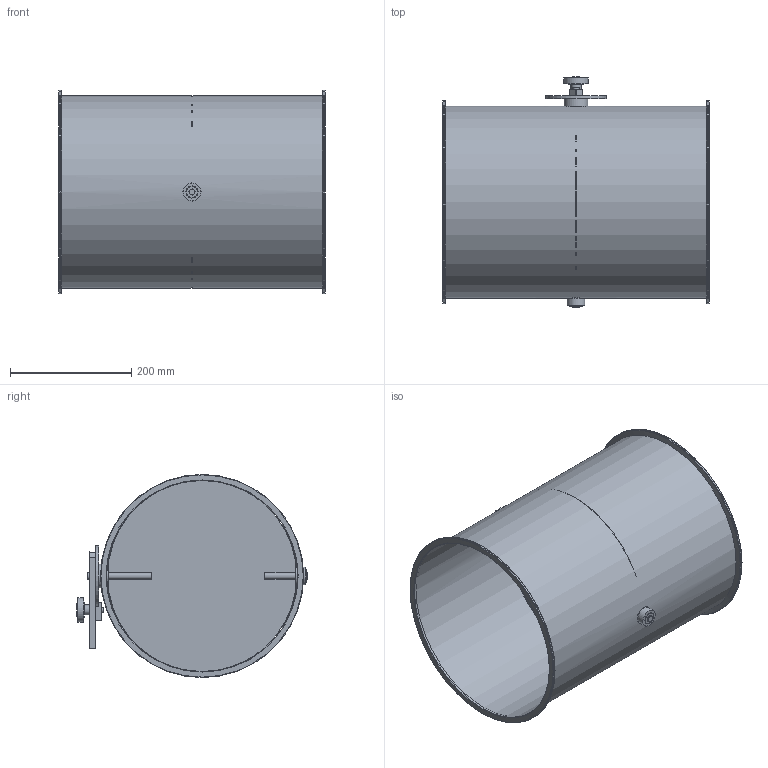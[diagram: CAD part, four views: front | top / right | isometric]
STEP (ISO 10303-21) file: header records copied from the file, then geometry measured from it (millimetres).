
FILE_DESCRIPTION(/* description */ (''),/* implementation_level */ '2;1');
FILE_NAME(/* name */ 'METU_Drosselklappe_Flansch_verzinkt_EA106-80B__315_L440_handbetaetigt.stp',/* time_stamp */ '2022-04-22T14:50:17+02:00',/* author */ (''),/* organization */ (''),/* preprocessor_version */ 'ST-DEVELOPER v11',/* originating_system */ 'SIEMENS UGS NX 6.0',/* authorisation */ '');
FILE_SCHEMA (('CONFIG_CONTROL_DESIGN'));
Length unit declared in the file: millimetre
Products named in the file (1): d.ga332Aq9a7
Bounding box: 440 x 380.31 x 335 mm (x, y, z)
Volume: 641364 mm3; surface area: 1115235.2 mm2
Topology: 12 solids, 12 shells, 85 faces, 172 edges, 116 vertices
Faces by surface type: plane 40, cylinder 35, torus 6, cone 2, sphere 2
Full cylindrical faces by diameter (mm): 4.4 x5, 6.8 x1, 8 x1, 9 x1, 10 x5, 16.5 x1, 19 x3, 19.85 x2, 20 x2, 29 x1, 30 x2, 35 x1, 39 x1, 40 x1, 100 x1, 315 x1, 316.6 x1, 335 x2
Entity records: 2112 total; most frequent: CARTESIAN_POINT 374, DIRECTION 358, ORIENTED_EDGE 236, EDGE_LOOP 162, AXIS2_PLACEMENT_3D 158, FACE_BOUND 140, EDGE_CURVE 118, VERTEX_POINT 102
